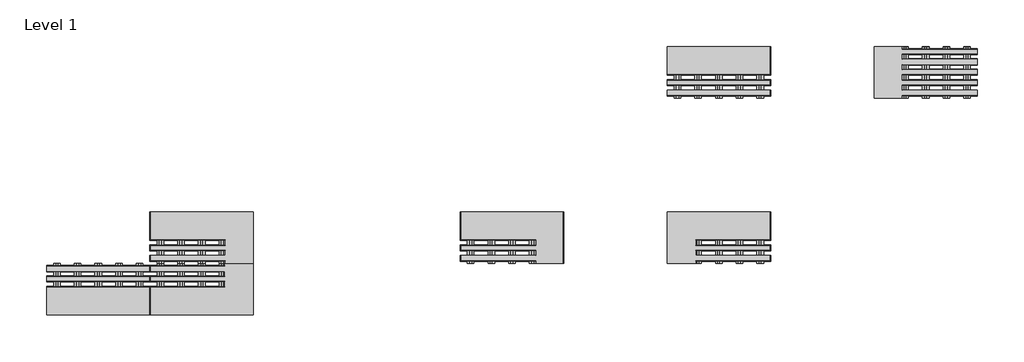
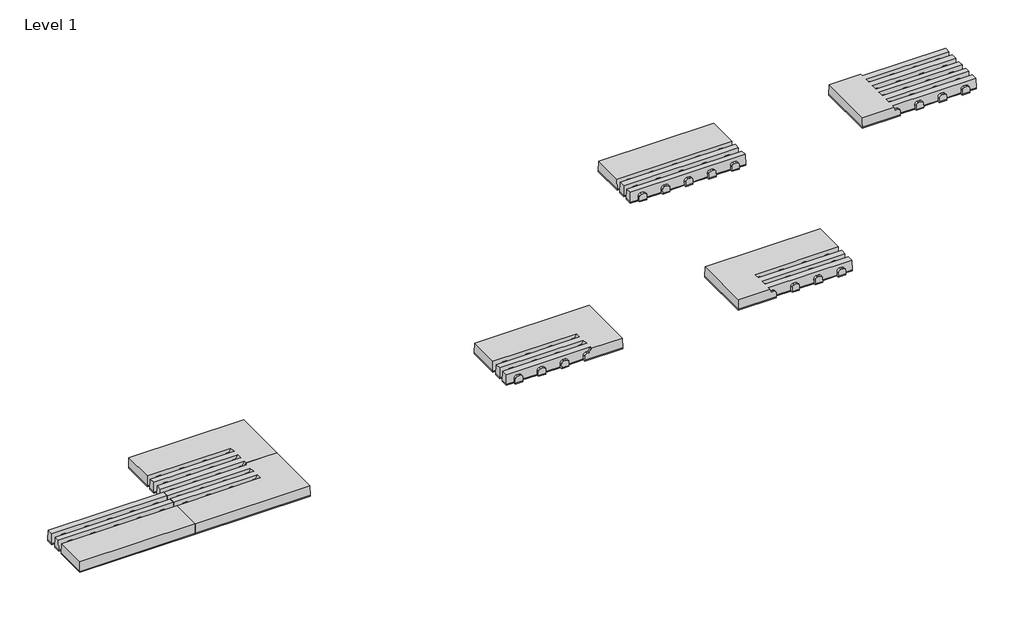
# One storey, incomplete: 7 proxies.
"""IFC4 building model written with IfcOpenShell, lengths in millimetres."""

from ifc_helpers import new_model, si_unit, origin, place, context, project, spatial, transform, mapped, element, save
from components import s2_type_1_b20050cd, s3_type_1_7c8f1051, s4_type_1_be93ef24, s5_type_1_397d8c60

model = new_model("IFC4")

# Units and contexts
model_context = context("Model", 3, world=origin())
ifc_project = project(units=[si_unit("LENGTHUNIT", "METRE", prefix="MILLI")], contexts=[model_context])

# Site, building, storey
site = spatial("IfcSite", under=ifc_project)
building = spatial("IfcBuilding", under=site)
storey = spatial("IfcBuildingStorey", under=building, Name="Level 1", Elevation=0.0)

# Proxies
placement = place(None, origin())
s2_type_1_shape = s2_type_1_b20050cd(model_context)
element("IfcBuildingElementProxy", 1, Name="S2 : Type 1", ObjectType="S2 : Type 1", at=placement, inside=storey, context=model_context, shape_type="MappedRepresentation", body=[
    mapped(s2_type_1_shape, transform((2493.8903768, 3538.4536361, 0.0), x_axis=(1.0, 0.0, 0.0), y_axis=(0.0, 1.0, 0.0), z_axis=(0.0, 0.0, 1.0))),
])
element("IfcBuildingElementProxy", 2, Name="S2 : Type 1", ObjectType="S2 : Type 1", at=placement, inside=storey, context=model_context, shape_type="MappedRepresentation", body=[
    mapped(s2_type_1_shape, transform((-3756.1096232, 1538.4536361, 0.0), x_axis=(-1.0, 0.0, 0.0), y_axis=(0.0, -1.0, 0.0), z_axis=(0.0, 0.0, 1.0))),
])
s3_type_1_shape = s3_type_1_7c8f1051(model_context)
element("IfcBuildingElementProxy", 3, Name="S3 : Type 1", ObjectType="S3 : Type 1", at=placement, inside=storey, context=model_context, shape_type="MappedRepresentation", body=[
    mapped(s3_type_1_shape, transform((4993.8903768, 3538.4536361, 0.0), x_axis=(1.0, 0.0, 0.0), y_axis=(0.0, 1.0, 0.0), z_axis=(0.0, 0.0, 1.0))),
])
s4_type_1_shape = s4_type_1_be93ef24(model_context)
element("IfcBuildingElementProxy", 4, Name="S4 : Type 1", ObjectType="S4 : Type 1", at=placement, inside=storey, context=model_context, shape_type="MappedRepresentation", body=[
    mapped(s4_type_1_shape, transform((-6.1096232, 1538.4536361, 0.0), x_axis=(1.0, 0.0, 0.0), y_axis=(0.0, 1.0, 0.0), z_axis=(0.0, 0.0, 1.0))),
])
element("IfcBuildingElementProxy", 5, Name="S4 : Type 1", ObjectType="S4 : Type 1", at=placement, inside=storey, context=model_context, shape_type="MappedRepresentation", body=[
    mapped(s4_type_1_shape, transform((-3756.1096232, 1538.4536361, 0.0), x_axis=(1.0, 0.0, 0.0), y_axis=(0.0, 1.0, 0.0), z_axis=(0.0, 0.0, 1.0))),
])
s5_type_1_shape = s5_type_1_397d8c60(model_context)
element("IfcBuildingElementProxy", 6, Name="S5 : Type 1", ObjectType="S5 : Type 1", at=placement, inside=storey, context=model_context, shape_type="MappedRepresentation", body=[
    mapped(s5_type_1_shape, transform((2493.8903768, 1538.4536361, 0.0), x_axis=(1.0, 0.0, 0.0), y_axis=(0.0, 1.0, 0.0), z_axis=(0.0, 0.0, 1.0))),
])
element("IfcBuildingElementProxy", 7, Name="S5 : Type 1", ObjectType="S5 : Type 1", at=placement, inside=storey, context=model_context, shape_type="MappedRepresentation", body=[
    mapped(s5_type_1_shape, transform((-2506.1096232, 1538.4536361, 0.0), x_axis=(-1.0, 0.0, 0.0), y_axis=(0.0, -1.0, 0.0), z_axis=(0.0, 0.0, 1.0))),
])

save(model, "model.ifc")
